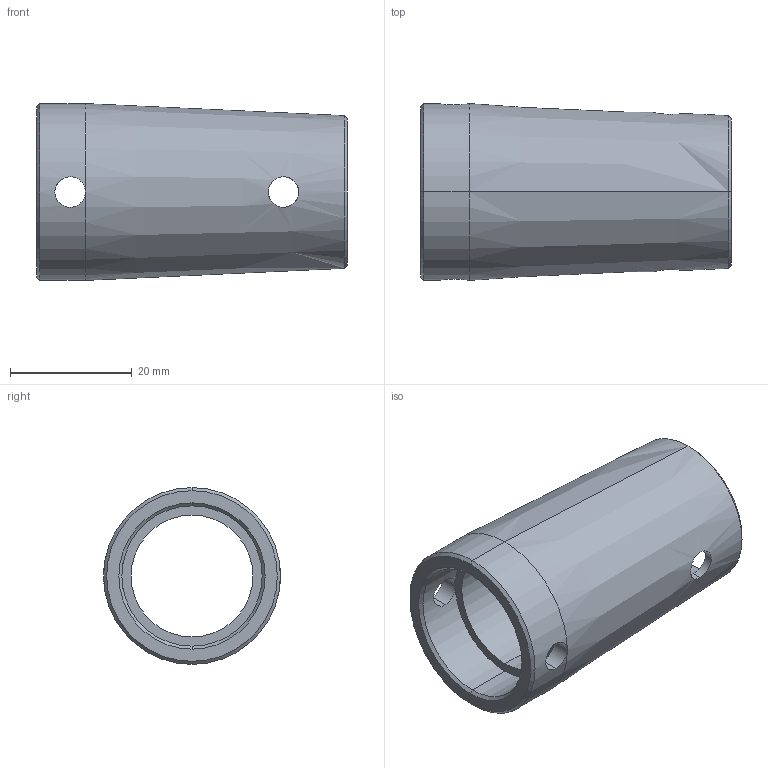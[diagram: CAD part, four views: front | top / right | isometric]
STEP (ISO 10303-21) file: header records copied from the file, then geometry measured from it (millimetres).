
FILE_DESCRIPTION (( 'STEP AP203' ), '1' );
FILE_NAME ('Abdeckhülse M20.STEP', '2018-02-20T06:49:56', ( 'install' ), ( 'Hewlett-Packard Company' ), 'SwSTEP 2.0', 'SolidWorks 2017', '' );
FILE_SCHEMA (( 'CONFIG_CONTROL_DESIGN' ));
Length unit declared in the file: millimetre
Products named in the file (1): Abdeckhülse M20
Bounding box: 51 x 29 x 29 mm (x, y, z)
Volume: 10883.2 mm3; surface area: 8288.7 mm2
Topology: 1 solids, 1 shells, 31 faces, 82 edges, 50 vertices
Faces by surface type: cylinder 18, cone 8, plane 5
Entity records: 1485 total; most frequent: CARTESIAN_POINT 638, ORIENTED_EDGE 164, DIRECTION 158, EDGE_CURVE 82, AXIS2_PLACEMENT_3D 66, VERTEX_POINT 50, EDGE_LOOP 38, CIRCLE 34
